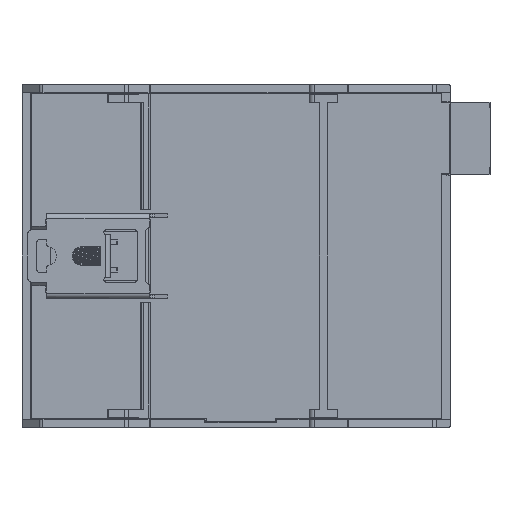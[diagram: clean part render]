
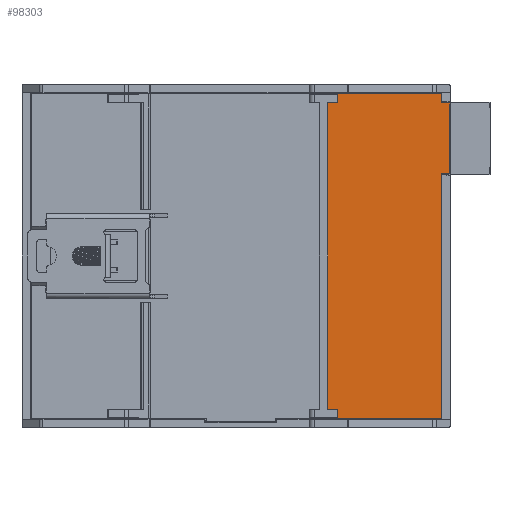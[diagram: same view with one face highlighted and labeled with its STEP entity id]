
A CAD part, front view. The second image highlights one B-rep face of the part: STEP entity #98303.
In plain terms, the highlighted planar face has unit normal (0, -1, 0).
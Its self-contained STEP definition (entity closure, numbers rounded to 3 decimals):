
#19912=DIRECTION('',(1.,0.,0.));
#19913=VECTOR('',#19912,21.678);
#19914=CARTESIAN_POINT('',(21.422,-26.25,34.1));
#19915=LINE('',#19914,#19913);
#20092=DIRECTION('',(-1.,0.,0.));
#20093=VECTOR('',#20092,2.122);
#20094=CARTESIAN_POINT('',(21.422,-26.25,-32.2));
#20095=LINE('',#20094,#20093);
#20100=DIRECTION('',(0.,0.,1.));
#20101=VECTOR('',#20100,64.4);
#20102=CARTESIAN_POINT('',(19.3,-26.25,-32.2));
#20103=LINE('',#20102,#20101);
#20112=DIRECTION('',(-1.,0.,0.));
#20113=VECTOR('',#20112,2.122);
#20114=CARTESIAN_POINT('',(21.422,-26.25,32.2));
#20115=LINE('',#20114,#20113);
#20116=DIRECTION('',(-1.,0.,0.));
#20117=VECTOR('',#20116,1.82);
#20118=CARTESIAN_POINT('',(44.92,-26.25,32.17));
#20119=LINE('',#20118,#20117);
#20120=DIRECTION('',(0.,0.,1.));
#20121=VECTOR('',#20120,14.84);
#20122=CARTESIAN_POINT('',(44.92,-26.25,17.33));
#20123=LINE('',#20122,#20121);
#20124=DIRECTION('',(1.,0.,0.));
#20125=VECTOR('',#20124,1.82);
#20126=CARTESIAN_POINT('',(43.1,-26.25,17.33));
#20127=LINE('',#20126,#20125);
#20128=DIRECTION('',(1.,0.,0.));
#20129=VECTOR('',#20128,21.678);
#20130=CARTESIAN_POINT('',(21.422,-26.25,-34.1));
#20131=LINE('',#20130,#20129);
#20132=DIRECTION('',(0.,0.,-1.));
#20133=VECTOR('',#20132,1.9);
#20134=CARTESIAN_POINT('',(21.422,-26.25,-32.2));
#20135=LINE('',#20134,#20133);
#20144=DIRECTION('',(0.,0.,1.));
#20145=VECTOR('',#20144,1.9);
#20146=CARTESIAN_POINT('',(21.422,-26.25,32.2));
#20147=LINE('',#20146,#20145);
#20156=DIRECTION('',(0.,0.,-1.));
#20157=VECTOR('',#20156,1.93);
#20158=CARTESIAN_POINT('',(43.1,-26.25,34.1));
#20159=LINE('',#20158,#20157);
#20240=DIRECTION('',(0.,0.,-1.));
#20241=VECTOR('',#20240,51.43);
#20242=CARTESIAN_POINT('',(43.1,-26.25,17.33));
#20243=LINE('',#20242,#20241);
#59782=CARTESIAN_POINT('',(21.422,-26.25,32.2));
#59783=CARTESIAN_POINT('',(19.3,-26.25,32.2));
#59784=VERTEX_POINT('',#59782);
#59785=VERTEX_POINT('',#59783);
#59792=CARTESIAN_POINT('',(19.3,-26.25,-32.2));
#59793=VERTEX_POINT('',#59792);
#59796=CARTESIAN_POINT('',(21.422,-26.25,-32.2));
#59797=VERTEX_POINT('',#59796);
#59800=CARTESIAN_POINT('',(21.422,-26.25,-34.1));
#59801=VERTEX_POINT('',#59800);
#61198=CARTESIAN_POINT('',(43.1,-26.25,17.33));
#61199=CARTESIAN_POINT('',(43.1,-26.25,-34.1));
#61200=VERTEX_POINT('',#61198);
#61201=VERTEX_POINT('',#61199);
#61204=CARTESIAN_POINT('',(44.92,-26.25,17.33));
#61206=VERTEX_POINT('',#61204);
#61212=CARTESIAN_POINT('',(44.92,-26.25,32.17));
#61213=VERTEX_POINT('',#61212);
#61214=CARTESIAN_POINT('',(43.1,-26.25,32.17));
#61216=VERTEX_POINT('',#61214);
#61220=CARTESIAN_POINT('',(43.1,-26.25,34.1));
#61221=VERTEX_POINT('',#61220);
#61222=CARTESIAN_POINT('',(21.422,-26.25,34.1));
#61223=VERTEX_POINT('',#61222);
#98278=CARTESIAN_POINT('',(-45.,-26.25,-36.));
#98279=DIRECTION('',(0.,-1.,0.));
#98280=DIRECTION('',(1.,0.,0.));
#98281=AXIS2_PLACEMENT_3D('',#98278,#98279,#98280);
#98282=PLANE('',#98281);
#98283=ORIENTED_EDGE('',*,*,#98269,.F.);
#98285=ORIENTED_EDGE('',*,*,#98284,.T.);
#98286=ORIENTED_EDGE('',*,*,#97998,.T.);
#98288=ORIENTED_EDGE('',*,*,#98287,.T.);
#98290=ORIENTED_EDGE('',*,*,#98289,.F.);
#98292=ORIENTED_EDGE('',*,*,#98291,.F.);
#98294=ORIENTED_EDGE('',*,*,#98293,.F.);
#98296=ORIENTED_EDGE('',*,*,#98295,.T.);
#98297=ORIENTED_EDGE('',*,*,#98135,.F.);
#98298=ORIENTED_EDGE('',*,*,#98229,.F.);
#98299=ORIENTED_EDGE('',*,*,#98244,.T.);
#98300=ORIENTED_EDGE('',*,*,#98257,.T.);
#98301=EDGE_LOOP('',(#98283,#98285,#98286,#98288,#98290,#98292,#98294,#98296,
#98297,#98298,#98299,#98300));
#98302=FACE_OUTER_BOUND('',#98301,.F.);
#98303=ADVANCED_FACE('',(#98302),#98282,.T.);
#97998=EDGE_CURVE('',#61223,#61221,#19915,.T.);
#98135=EDGE_CURVE('',#59801,#61201,#20131,.T.);
#98229=EDGE_CURVE('',#59797,#59801,#20135,.T.);
#98244=EDGE_CURVE('',#59797,#59793,#20095,.T.);
#98257=EDGE_CURVE('',#59793,#59785,#20103,.T.);
#98269=EDGE_CURVE('',#59784,#59785,#20115,.T.);
#98284=EDGE_CURVE('',#59784,#61223,#20147,.T.);
#98287=EDGE_CURVE('',#61221,#61216,#20159,.T.);
#98289=EDGE_CURVE('',#61213,#61216,#20119,.T.);
#98291=EDGE_CURVE('',#61206,#61213,#20123,.T.);
#98293=EDGE_CURVE('',#61200,#61206,#20127,.T.);
#98295=EDGE_CURVE('',#61200,#61201,#20243,.T.);
